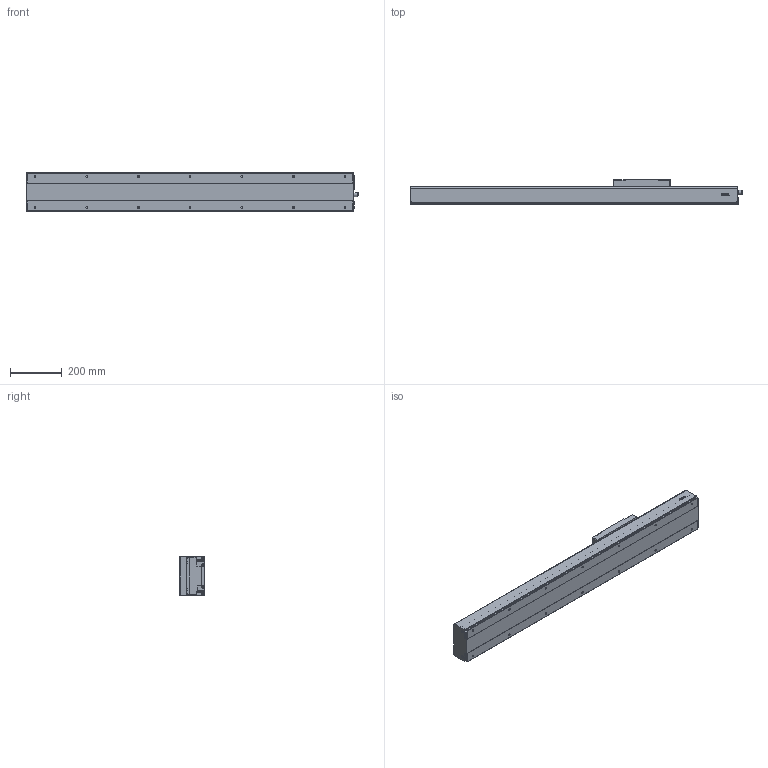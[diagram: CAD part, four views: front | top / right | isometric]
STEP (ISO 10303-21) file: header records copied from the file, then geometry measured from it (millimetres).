
FILE_DESCRIPTION(/* description */ (''),/* implementation_level */ '2;1');
FILE_NAME(/* name */ 'D:\混合母檔20191031\混和母檔\混和母檔\bin\Debug\Download\3D\KS150-10C-750AFI\KS150-10C-750AFI.stp',/* time_stamp */ '2019-11-04T15:49:21+08:00',/* author */ ('user'),/* organization */ (''),/* preprocessor_version */ 'ST-DEVELOPER v16.13',/* originating_system */ 'Autodesk Inventor 2018',/* authorisation */ '');
FILE_SCHEMA (('AUTOMOTIVE_DESIGN { 1 0 10303 214 3 1 1 }'));
Length unit declared in the file: millimetre
Products named in the file (3): KS150-10C-750AFI; KS150-FI; KS150-SL
Assembly tree (2 placements, depth 2):
  KS150-10C-750AFI
    KS150-FI
    KS150-SL
Bounding box: 1285.05 x 100 x 152.4 mm (x, y, z)
Volume: 5360656.2 mm3; surface area: 1276883.9 mm2
Topology: 4 solids, 8 shells, 1241 faces, 3275 edges, 2124 vertices
Faces by surface type: plane 615, cone 228, cylinder 190, bspline 136, torus 68, sphere 4
Full cylindrical faces by diameter (mm): 3.242 x12, 3.571 x8, 4.134 x4, 4.5 x8, 4.509 x6, 4.917 x4, 5 x18, 5.5 x12, 6 x2, 6.647 x18, 8 x4, 8.4 x8, 9.3 x12, 10.437 x1, 12 x1, 14 x1, 15 x1, 15.538 x1, 23 x1, 46 x1, 50 x1
Entity records: 40968 total; most frequent: CARTESIAN_POINT 12720, ORIENTED_EDGE 5840, DIRECTION 5425, EDGE_CURVE 2920, VERTEX_POINT 2016, AXIS2_PLACEMENT_3D 1880, LINE 1665, VECTOR 1665
